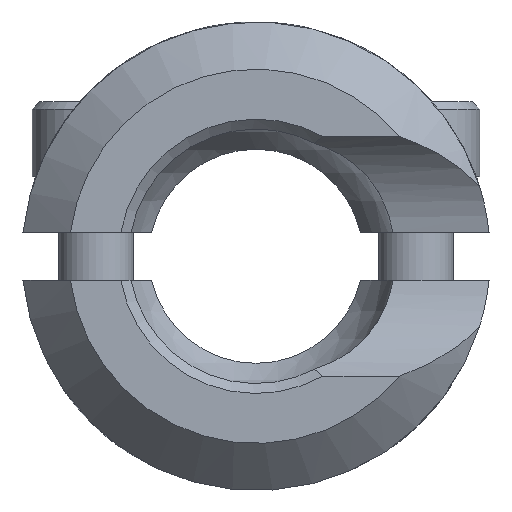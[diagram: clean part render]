
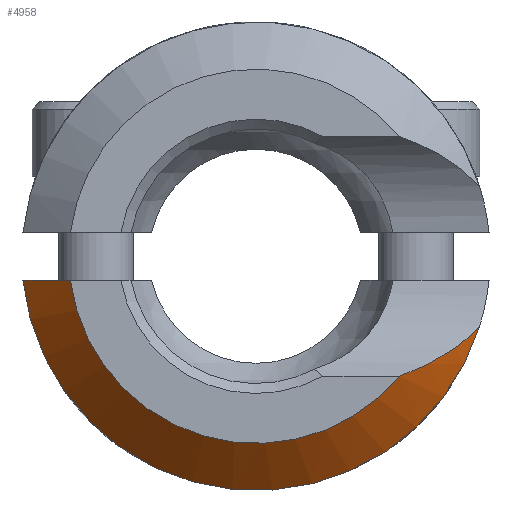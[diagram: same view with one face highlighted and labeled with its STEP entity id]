
A CAD part, front view. The second image highlights one B-rep face of the part: STEP entity #4958.
In plain terms, the highlighted conical face has half-angle 45.2 degrees and reference radius 15.621 mm.
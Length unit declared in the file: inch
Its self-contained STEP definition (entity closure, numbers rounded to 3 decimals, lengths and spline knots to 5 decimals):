
#75 = CARTESIAN_POINT ( 'NONE',  ( -0.61182, -0.05005, -0.0625 ) ) ;
#224 = VERTEX_POINT ( 'NONE', #13699 ) ;
#303 = CARTESIAN_POINT ( 'NONE',  ( -0.4872, -0.173, -0.0625 ) ) ;
#1439 = CARTESIAN_POINT ( 'NONE',  ( 0.58694, -0.05005, -0.18366 ) ) ;
#1515 = EDGE_CURVE ( 'NONE', #224, #5036, #7108, .T. ) ;
#1592 = FACE_OUTER_BOUND ( 'NONE', #5635, .T. ) ;
#1732 = AXIS2_PLACEMENT_3D ( 'NONE', #8046, #10569, #9433 ) ;
#2536 = CARTESIAN_POINT ( 'NONE',  ( 0.52393, -0.08866, -0.24033 ) ) ;
#2553 = CARTESIAN_POINT ( 'NONE',  ( 0.58694, -0.05005, -0.18366 ) ) ;
#3158 = CARTESIAN_POINT ( 'NONE',  ( 0., -0.05005, 0. ) ) ;
#3678 = VERTEX_POINT ( 'NONE', #6251 ) ;
#4614 = EDGE_CURVE ( 'NONE', #3678, #224, #9723, .T. ) ;
#4635 = DIRECTION ( 'NONE',  ( -1., 0., 0. ) ) ;
#4958 = ADVANCED_FACE ( 'NONE', ( #1592 ), #6232, .T. ) ;
#5036 = VERTEX_POINT ( 'NONE', #75 ) ;
#5635 = EDGE_LOOP ( 'NONE', ( #12175, #14692, #9658, #11669 ) ) ;
#6232 = CONICAL_SURFACE ( 'NONE', #11758, 0.615, 0.789 ) ;
#6251 = CARTESIAN_POINT ( 'NONE',  ( 0.37718, -0.173, -0.31466 ) ) ;
#6371 = CARTESIAN_POINT ( 'NONE',  ( 0.5725, -0.05901, -0.1996 ) ) ;
#6582 = CARTESIAN_POINT ( 'NONE',  ( -0.52877, -0.13205, -0.0625 ) ) ;
#7049 = DIRECTION ( 'NONE',  ( 0., 1., 0. ) ) ;
#7108 = B_SPLINE_CURVE_WITH_KNOTS ( 'NONE', 3,
 ( #303, #6582, #14302, #10556 ),
 .UNSPECIFIED., .F., .F.,
 ( 4, 4 ),
 ( 0.06435, 0.06883 ),
 .UNSPECIFIED. ) ;
#7234 = EDGE_CURVE ( 'NONE', #3678, #10009, #9268, .T. ) ;
#8046 = CARTESIAN_POINT ( 'NONE',  ( 0., -0.173, 0. ) ) ;
#9028 = CARTESIAN_POINT ( 'NONE',  ( 0., -0.05005, 0. ) ) ;
#9268 = B_SPLINE_CURVE_WITH_KNOTS ( 'NONE', 3,
 ( #9933, #10000, #15508, #11539, #2536, #15450, #6371, #1439 ),
 .UNSPECIFIED., .F., .F.,
 ( 4, 2, 2, 4 ),
 ( 0.00069, 0.00421, 0.00597, 0.00773 ),
 .UNSPECIFIED. ) ;
#9433 = DIRECTION ( 'NONE',  ( -1., 0., 0. ) ) ;
#9610 = EDGE_CURVE ( 'NONE', #10009, #5036, #13174, .T. ) ;
#9658 = ORIENTED_EDGE ( 'NONE', *, *, #1515, .T. ) ;
#9723 = CIRCLE ( 'NONE', #1732, 0.49119 ) ;
#9933 = CARTESIAN_POINT ( 'NONE',  ( 0.37718, -0.173, -0.31466 ) ) ;
#10000 = CARTESIAN_POINT ( 'NONE',  ( 0.41626, -0.1519, -0.30098 ) ) ;
#10009 = VERTEX_POINT ( 'NONE', #2553 ) ;
#10556 = CARTESIAN_POINT ( 'NONE',  ( -0.61182, -0.05005, -0.0625 ) ) ;
#10569 = DIRECTION ( 'NONE',  ( 0., 1., 0. ) ) ;
#10592 = AXIS2_PLACEMENT_3D ( 'NONE', #3158, #7049, #4635 ) ;
#11539 = CARTESIAN_POINT ( 'NONE',  ( 0.50665, -0.09905, -0.25218 ) ) ;
#11669 = ORIENTED_EDGE ( 'NONE', *, *, #9610, .F. ) ;
#11758 = AXIS2_PLACEMENT_3D ( 'NONE', #9028, #15181, #13947 ) ;
#12175 = ORIENTED_EDGE ( 'NONE', *, *, #7234, .F. ) ;
#13174 = CIRCLE ( 'NONE', #10592, 0.615 ) ;
#13699 = CARTESIAN_POINT ( 'NONE',  ( -0.4872, -0.173, -0.0625 ) ) ;
#13947 = DIRECTION ( 'NONE',  ( -1., 0., 0. ) ) ;
#14302 = CARTESIAN_POINT ( 'NONE',  ( -0.5703, -0.09106, -0.0625 ) ) ;
#14692 = ORIENTED_EDGE ( 'NONE', *, *, #4614, .T. ) ;
#15181 = DIRECTION ( 'NONE',  ( 0., 1., 0. ) ) ;
#15450 = CARTESIAN_POINT ( 'NONE',  ( 0.55693, -0.06859, -0.21398 ) ) ;
#15508 = CARTESIAN_POINT ( 'NONE',  ( 0.45358, -0.13045, -0.28413 ) ) ;
